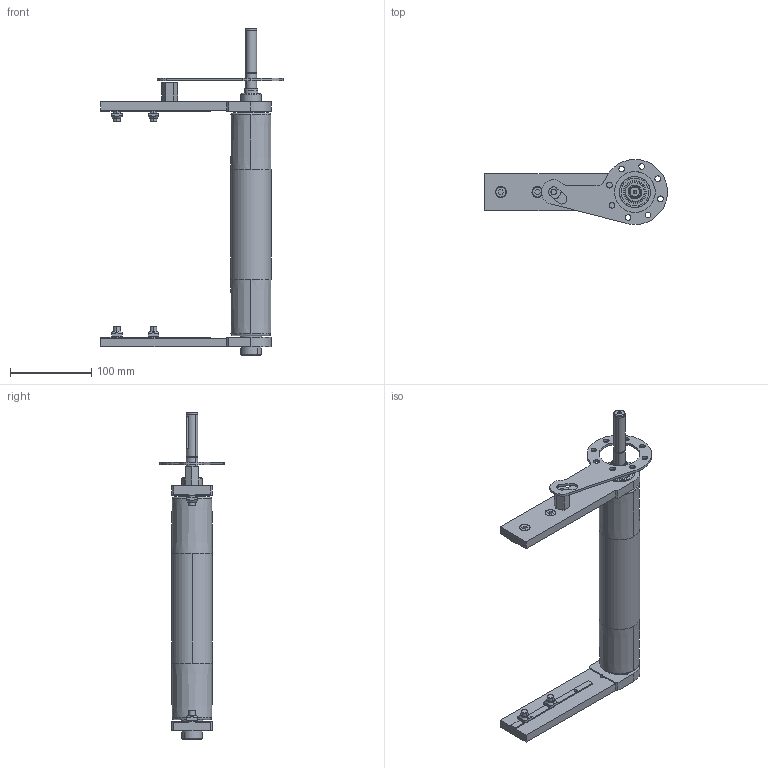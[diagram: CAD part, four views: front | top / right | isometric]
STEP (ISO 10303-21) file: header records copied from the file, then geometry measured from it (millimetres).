
FILE_DESCRIPTION (( 'STEP AP203' ), '1' );
FILE_NAME ('084.050.KD.30.250.STEP', '2019-07-29T10:06:01', ( '' ), ( '' ), 'SwSTEP 2.0', 'SolidWorks 2018', '' );
FILE_SCHEMA (( 'CONFIG_CONTROL_DESIGN' ));
Length unit declared in the file: millimetre
Products named in the file (12): 084.302.000 DADI ALUSIC 13x13_084.302.004; 084.810.001; 084.050.KD.30.250; 084.815.104_Default<A macchina>; 1117.010.004; 084.811.004; 084.301.000 VITI ALUSIC_084.301.003; 084.807.002_084.807.002; 084.807.003_084.807.003; 084.802.027; 084.811.001; 084.802.017_084.802.017
Assembly tree (19 placements, depth 2):
  084.050.KD.30.250
    084.811.001
    084.802.027
    1117.010.004
    084.807.002_084.807.002
    084.807.003_084.807.003
    084.802.017_084.802.017  x2
    084.811.004
    084.815.104_Default<A macchina>
    084.810.001  x2
    084.301.000 VITI ALUSIC_084.301.003  x4
    084.302.000 DADI ALUSIC 13x13_084.302.004  x4
Bounding box: 225 x 80 x 403.5 mm (x, y, z)
Volume: 463424.6 mm3; surface area: 247833.4 mm2
Topology: 21 solids, 23 shells, 621 faces, 1547 edges, 1000 vertices
Faces by surface type: plane 258, cylinder 225, torus 68, cone 62, sphere 8
Entity records: 14996 total; most frequent: CARTESIAN_POINT 2657, DIRECTION 2456, ORIENTED_EDGE 2162, EDGE_CURVE 1081, AXIS2_PLACEMENT_3D 977, VERTEX_POINT 702, CIRCLE 528, EDGE_LOOP 509
